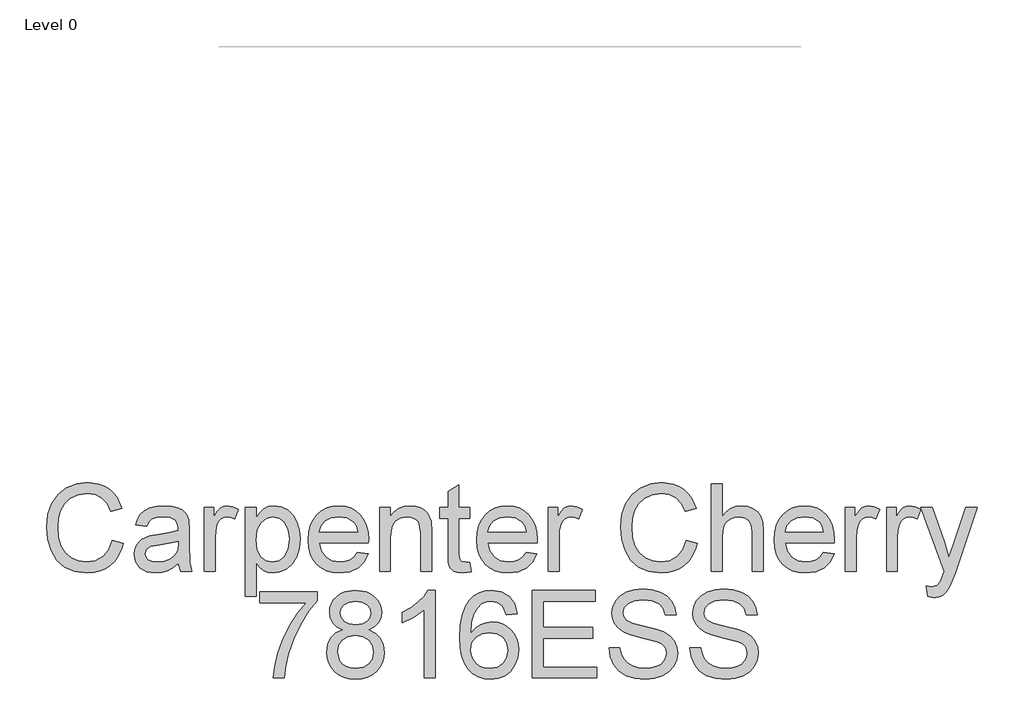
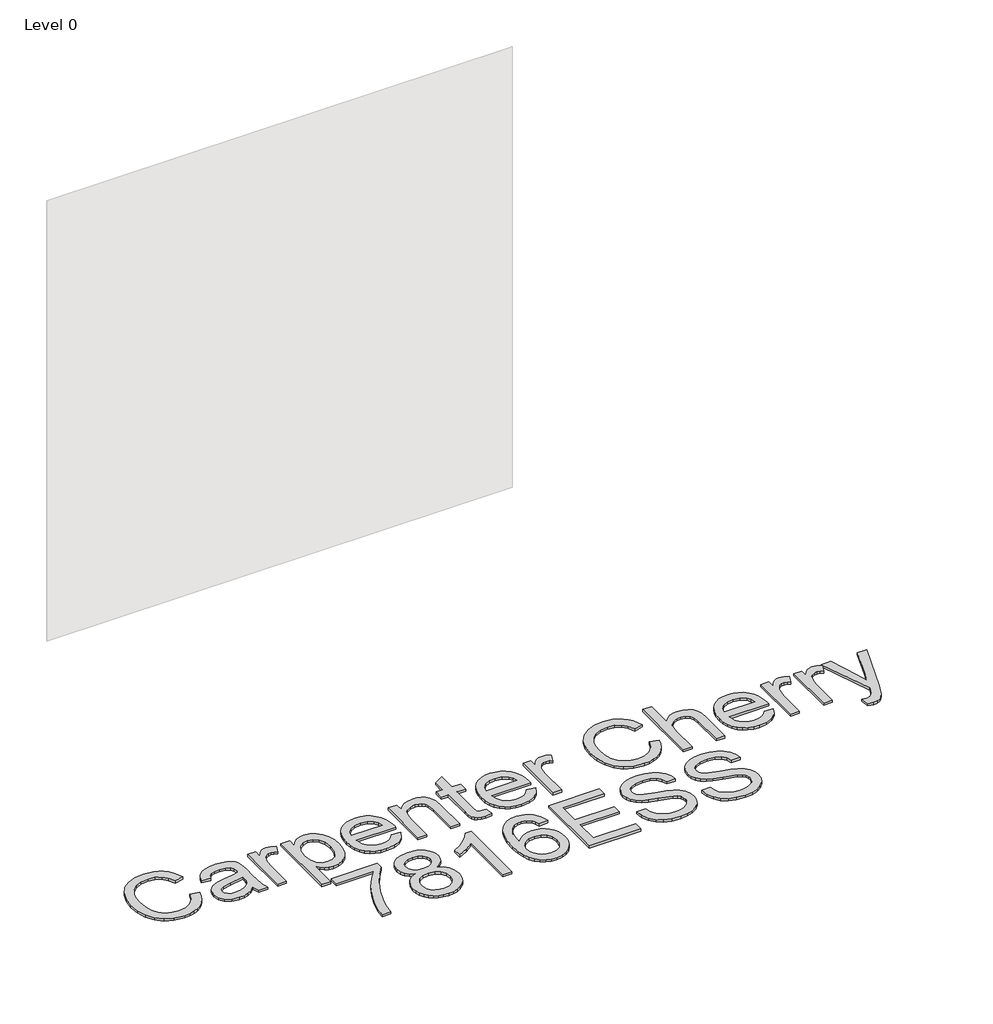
# One storey, part 34 of 43: 1 proxy.
"""IFC4 building model written with IfcOpenShell, lengths in millimetres."""

from ifc_helpers import new_model, si_unit, origin, origin_with_axes, place, context, project, spatial, polyline, outline, extrude, element, save

model = new_model("IFC4")

# Units and contexts
model_context = context("Model", 3, world=origin())
ifc_project = project(units=[si_unit("LENGTHUNIT", "METRE", prefix="MILLI")], contexts=[model_context])

# Site, building, storey
site = spatial("IfcSite", under=ifc_project)
building = spatial("IfcBuilding", under=site)
storey = spatial("IfcBuildingStorey", under=building, Name="Level 0", Elevation=0.0)

# Proxy
placement = place(None, origin())
element("IfcBuildingElementProxy", 1, Name="300mm Arial", ObjectType="300mm Arial", at=placement, inside=storey, context=model_context, shape_type="SweptSolid", body=[
    extrude(outline(polyline([(21383.7639776, -11893.733257), (21421.4350939, -11903.4453417), (21413.980885, -11926.872527), (21404.0526696, -11947.3428607), (21391.6504479, -11964.856343), (21376.7742197, -11979.4129737), (21359.7596774, -11990.856403), (21340.9425134, -11999.0302811), (21320.3227275, -12003.9346079), (21297.9003199, -12005.5693835), (21254.2051359, -12000.6213707), (21219.5046667, -11985.7773322), (21192.9067985, -11961.5523028), (21173.5194174, -11928.4613173), (21161.6828142, -11889.5577963), (21157.7372798, -11847.8951604), (21162.197849, -11803.9516561), (21175.5795565, -11766.0046283), (21197.1834267, -11735.2588905), (21226.3104837, -11712.9192564), (21260.854603, -11699.3168196), (21298.7096603, -11694.782674), (21340.0136113, -11700.6503918), (21357.9823475, -11707.9850391), (21374.1622575, -11718.2535453), (21388.2866269, -11731.1845974), (21400.0887411, -11746.5068825), (21416.7262044, -11784.3251516), (21379.0550881, -11793.3014723), (21365.9952772, -11765.8298843), (21348.1530005, -11746.9851291), (21325.3075286, -11736.086625), (21297.2381323, -11732.4537903), (21264.8829109, -11736.4820981), (21238.3034367, -11748.5670217), (21218.1343063, -11767.439368), (21205.0101161, -11791.8299443), (21197.8088261, -11819.4026999), (21195.4083961, -11847.821584), (21198.2502845, -11882.6232207), (21206.7759497, -11912.7159679), (21221.3072885, -11936.9501944), (21242.1661977, -11954.1762688), (21267.1729763, -11964.4677676), (21294.1479236, -11967.8982672), (21325.5926371, -11963.2261659), (21351.7950322, -11949.2098619), (21371.5778865, -11925.996508), (21383.7639776, -11893.733257)])), origin_with_axes(), (0.0, 0.0, 1.0), 10.0),
    extrude(outline(polyline([(21609.7906754, -11972.6071568), (21591.7920488, -11988.0398064), (21573.2599933, -11998.1381672), (21553.7714446, -12003.7115794), (21532.9033384, -12005.5693835), (21501.4218367, -12001.0996173), (21478.1992858, -11987.6903186), (21463.8794791, -11967.3280501), (21459.1062102, -11941.9993748), (21460.908832, -11926.3827841), (21466.3166973, -11912.2009331), (21474.6584216, -11900.0608273), (21485.2626201, -11890.5694718), (21511.6397591, -11878.2086368), (21544.2341039, -11872.5432541), (21582.7513488, -11866.5835657), (21609.5699462, -11859.5938078), (21609.7906754, -11851.2060983), (21607.1971074, -11834.3938912), (21599.4164032, -11823.3942195), (21582.0155848, -11815.2272392), (21557.7721613, -11812.5049125), (21535.3313596, -11814.3167313), (21519.6595866, -11819.7521878), (21508.9726147, -11829.8045633), (21501.4862161, -11845.4671392), (21463.8150997, -11840.7582497), (21470.3542022, -11820.156858), (21480.1122721, -11803.9700502), (21493.9998175, -11791.590821), (21512.9273461, -11782.4121652), (21536.0763206, -11776.7283884), (21562.6282037, -11774.8337961), (21588.0948348, -11776.5076592), (21608.2823593, -11781.5292485), (21623.5034768, -11789.0800264), (21634.0708871, -11798.3414556), (21641.0790391, -11809.7917827), (21645.6223818, -11823.9092543), (21647.4617917, -11856.8714811), (21647.4617917, -11903.7396473), (21649.3747781, -11969.1858542), (21656.8795708, -12000.860494), (21619.2084545, -12000.860494), (21609.7906754, -11972.6071568)]), holes=[polyline([(21609.7906754, -11897.2649241), (21549.0165698, -11908.8164188), (21516.6061661, -11914.9232599), (21501.9276744, -11924.8560738), (21496.7773265, -11939.3506244), (21499.5824267, -11950.5526311), (21507.9977274, -11959.7312869), (21521.8392874, -11965.8565221), (21540.9231659, -11967.8982672), (21561.1566757, -11965.64499), (21579.0357406, -11958.8851583), (21593.5302912, -11948.9247533), (21603.6102579, -11937.069756), (21608.0800242, -11924.8560738), (21609.5699462, -11907.933502), (21609.7906754, -11897.2649241)])]), origin_with_axes(), (0.0, 0.0, 1.0), 10.0),
    extrude(outline(polyline([(21699.2595767, -12000.860494), (21699.2595767, -11779.5426857), (21732.2218034, -11779.5426857), (21732.2218034, -11812.2841833), (21744.3986975, -11793.3014723), (21755.6190983, -11782.1178596), (21766.8762874, -11776.654812), (21779.163546, -11774.8337961), (21797.9255278, -11777.7400639), (21816.9818151, -11786.4588672), (21804.4002509, -11820.2304343), (21791.1564991, -11814.4362929), (21777.9127472, -11812.5049125), (21766.6647552, -11814.3627165), (21756.6123797, -11819.9361288), (21748.4913847, -11828.8020848), (21743.0375341, -11840.5375205), (21738.4574032, -11861.5803706), (21736.930693, -11884.5362071), (21736.930693, -12000.860494), (21699.2595767, -12000.860494)])), origin_with_axes(), (0.0, 0.0, 1.0), 10.0),
    extrude(outline(polyline([(21840.5262628, -12085.6205057), (21840.5262628, -11779.5426857), (21878.1973791, -11779.5426857), (21878.1973791, -11816.478038), (21890.4846378, -11798.2586822), (21904.2434244, -11785.2448566), (21920.2830794, -11777.4365613), (21939.4129431, -11774.8337961), (21964.8887713, -11778.4758279), (21987.1640261, -11789.4019232), (22005.3006084, -11806.9498943), (22018.3604193, -11830.4575538), (22026.2514881, -11858.2142504), (22028.8818443, -11888.5093327), (22025.9111972, -11920.7265984), (22016.9992559, -11949.5409557), (22002.4311289, -11973.4900735), (21982.4919247, -11991.1116211), (21959.2693738, -12001.9549429), (21934.8512064, -12005.5693835), (21917.5331614, -12003.1505594), (21902.0729206, -11995.894087), (21888.8383658, -11984.9404006), (21878.1973791, -11971.4299344), (21878.1973791, -12085.6205057), (21840.5262628, -12085.6205057)]), holes=[polyline([(21878.1973791, -11891.9674234), (21882.2716722, -11925.7389906), (21894.4945515, -11949.3570147), (21912.5299663, -11963.2629541), (21934.041866, -11967.8982672), (21955.9032535, -11963.0974072), (21974.3985209, -11948.6948271), (21987.0076762, -11924.2122803), (21991.210728, -11889.1715202), (21987.1088438, -11855.5838941), (21974.803191, -11831.6347762), (21956.7953674, -11817.2873784), (21935.5869704, -11812.5049125), (21914.2957999, -11817.590881), (21895.5981975, -11832.8487868), (21882.5475837, -11857.8003831), (21878.1973791, -11891.9674234)])]), origin_with_axes(), (0.0, 0.0, 1.0), 10.0),
    extrude(outline(polyline([(22226.2137466, -11934.9360404), (22263.1490989, -11939.64493), (22249.8409677, -11967.4752029), (22228.6049795, -11988.2789297), (22199.9193809, -12001.2467701), (22164.2624186, -12005.5693835), (22140.8881163, -12003.7046817), (22120.0613968, -11998.1105761), (22101.7822602, -11988.7870668), (22086.0507064, -11975.7341537), (22073.4001643, -11959.3151204), (22064.3640628, -11939.8932503), (22058.9424019, -11917.4685435), (22057.1351816, -11892.0409998), (22058.960796, -11865.7512327), (22064.4376392, -11842.5792656), (22073.5657112, -11822.5250983), (22086.345012, -11805.5887309), (22102.0351791, -11792.133447), (22119.8958499, -11782.5225298), (22139.9270246, -11776.7559796), (22162.128703, -11774.8337961), (22183.6153108, -11776.751381), (22203.0463779, -11782.5041357), (22220.4219044, -11792.0920602), (22235.7418902, -11805.5151545), (22248.2475788, -11822.4147337), (22257.1802135, -11842.4321128), (22262.5397943, -11865.5672917), (22264.3263213, -11891.8202706), (22264.1055921, -11901.9738137), (22094.8062979, -11901.9738137), (22101.3270062, -11930.1719686), (22116.4745474, -11950.902119), (22138.335935, -11963.6492302), (22164.9981826, -11967.8982672), (22185.0477513, -11965.9300985), (22201.9335349, -11960.0255925), (22215.6555333, -11949.8168672), (22226.2137466, -11934.9360404)]), holes=[polyline([(22094.8062979, -11864.3026974), (22226.6552049, -11864.3026974), (22221.5600393, -11844.4002814), (22211.5720431, -11830.1632482), (22189.609488, -11816.9194964), (22161.9815502, -11812.5049125), (22136.5884955, -11816.0273826), (22115.5916306, -11826.5947929), (22100.9959124, -11843.0667092), (22094.8062979, -11864.3026974)])]), origin_with_axes(), (0.0, 0.0, 1.0), 10.0),
    extrude(outline(polyline([(22301.9974376, -12000.860494), (22301.9974376, -11779.5426857), (22339.6685539, -11779.5426857), (22339.6685539, -11810.4447733), (22352.7559558, -11794.8649708), (22368.4737141, -11783.7365404), (22386.8218286, -11777.0594822), (22407.8002994, -11774.8337961), (22426.3691431, -11776.6272209), (22443.3744883, -11782.0074951), (22457.5563392, -11790.303234), (22467.6547, -11800.8430532), (22478.9486772, -11828.5445674), (22480.93524, -11864.964885), (22480.93524, -12000.860494), (22443.2641237, -12000.860494), (22443.2641237, -11870.0416565), (22438.9231162, -11836.7115477), (22432.9174426, -11826.7879309), (22423.582437, -11819.0900002), (22411.6170751, -11814.1511844), (22397.7203327, -11812.5049125), (22375.65661, -11816.2021265), (22356.848643, -11827.2937687), (22349.332354, -11836.3482643), (22343.9635762, -11848.7228949), (22339.6685539, -11883.4325611), (22339.6685539, -12000.860494), (22301.9974376, -12000.860494)])), origin_with_axes(), (0.0, 0.0, 1.0), 10.0),
    extrude(outline(polyline([(22612.7841471, -11969.4433716), (22617.4930366, -12001.96414), (22589.3132758, -12005.5693835), (22571.2318757, -12004.005885), (22557.7490006, -11999.3153896), (22548.2208569, -11992.0865084), (22542.0036512, -11982.9078526), (22538.5823487, -11967.1441091), (22537.4419145, -11940.1599648), (22537.4419145, -11817.213802), (22509.1885772, -11817.213802), (22509.1885772, -11779.5426857), (22537.4419145, -11779.5426857), (22537.4419145, -11725.758338), (22575.1130308, -11703.6118419), (22575.1130308, -11779.5426857), (22612.7841471, -11779.5426857), (22612.7841471, -11817.213802), (22575.1130308, -11817.213802), (22575.1130308, -11939.0563188), (22577.0995936, -11958.4804881), (22583.5375285, -11965.3598814), (22596.3766101, -11967.8982672), (22612.7841471, -11969.4433716)])), origin_with_axes(), (0.0, 0.0, 1.0), 10.0),
    extrude(outline(polyline([(22805.4071598, -11934.9360404), (22842.3425121, -11939.64493), (22829.0343809, -11967.4752029), (22807.7983927, -11988.2789297), (22779.1127942, -12001.2467701), (22743.4558318, -12005.5693835), (22720.0815295, -12003.7046817), (22699.25481, -11998.1105761), (22680.9756734, -11988.7870668), (22665.2441196, -11975.7341537), (22652.5935775, -11959.3151204), (22643.557476, -11939.8932503), (22638.1358151, -11917.4685435), (22636.3285948, -11892.0409998), (22638.1542092, -11865.7512327), (22643.6310524, -11842.5792656), (22652.7591244, -11822.5250983), (22665.5384252, -11805.5887309), (22681.2285923, -11792.133447), (22699.0892632, -11782.5225298), (22719.1204378, -11776.7559796), (22741.3221162, -11774.8337961), (22762.808724, -11776.751381), (22782.2397911, -11782.5041357), (22799.6153176, -11792.0920602), (22814.9353034, -11805.5151545), (22827.440992, -11822.4147337), (22836.3736267, -11842.4321128), (22841.7332075, -11865.5672917), (22843.5197345, -11891.8202706), (22843.2990053, -11901.9738137), (22673.9997111, -11901.9738137), (22680.5204194, -11930.1719686), (22695.6679606, -11950.902119), (22717.5293482, -11963.6492302), (22744.1915958, -11967.8982672), (22764.2411645, -11965.9300985), (22781.1269481, -11960.0255925), (22794.8489465, -11949.8168672), (22805.4071598, -11934.9360404)]), holes=[polyline([(22673.9997111, -11864.3026974), (22805.8486182, -11864.3026974), (22800.7534525, -11844.4002814), (22790.7654563, -11830.1632482), (22768.8029012, -11816.9194964), (22741.1749634, -11812.5049125), (22715.7819087, -11816.0273826), (22694.7850438, -11826.5947929), (22680.1893256, -11843.0667092), (22673.9997111, -11864.3026974)])]), origin_with_axes(), (0.0, 0.0, 1.0), 10.0),
    extrude(outline(polyline([(22881.1908508, -12000.860494), (22881.1908508, -11779.5426857), (22914.1530775, -11779.5426857), (22914.1530775, -11812.2841833), (22926.3299716, -11793.3014723), (22937.5503724, -11782.1178596), (22948.8075615, -11776.654812), (22961.0948201, -11774.8337961), (22979.8568019, -11777.7400639), (22998.9130892, -11786.4588672), (22986.331525, -11820.2304343), (22973.0877732, -11814.4362929), (22959.8440213, -11812.5049125), (22948.5960293, -11814.3627165), (22938.5436538, -11819.9361288), (22930.4226588, -11828.8020848), (22924.9688082, -11840.5375205), (22920.3886774, -11861.5803706), (22918.8619671, -11884.5362071), (22918.8619671, -12000.860494), (22881.1908508, -12000.860494)])), origin_with_axes(), (0.0, 0.0, 1.0), 10.0),
    extrude(outline(polyline([(23356.7886941, -11893.733257), (23394.4598104, -11903.4453417), (23387.0056015, -11926.872527), (23377.0773862, -11947.3428607), (23364.6751644, -11964.856343), (23349.7989362, -11979.4129737), (23332.7843939, -11990.856403), (23313.9672299, -11999.0302811), (23293.3474441, -12003.9346079), (23270.9250365, -12005.5693835), (23227.2298525, -12000.6213707), (23192.5293833, -11985.7773322), (23165.931515, -11961.5523028), (23146.5441339, -11928.4613173), (23134.7075307, -11889.5577963), (23130.7619963, -11847.8951604), (23135.2225655, -11803.9516561), (23148.6042731, -11766.0046283), (23170.2081432, -11735.2588905), (23199.3352002, -11712.9192564), (23233.8793195, -11699.3168196), (23271.7343768, -11694.782674), (23313.0383279, -11700.6503918), (23331.0070641, -11707.9850391), (23347.1869741, -11718.2535453), (23361.3113434, -11731.1845974), (23373.1134577, -11746.5068825), (23389.7509209, -11784.3251516), (23352.0798046, -11793.3014723), (23339.0199938, -11765.8298843), (23321.177717, -11746.9851291), (23298.3322451, -11736.086625), (23270.2628489, -11732.4537903), (23237.9076274, -11736.4820981), (23211.3281532, -11748.5670217), (23191.1590228, -11767.439368), (23178.0348327, -11791.8299443), (23170.8335426, -11819.4026999), (23168.4331126, -11847.821584), (23171.275001, -11882.6232207), (23179.8006662, -11912.7159679), (23194.3320051, -11936.9501944), (23215.1909142, -11954.1762688), (23240.1976928, -11964.4677676), (23267.1726401, -11967.8982672), (23298.6173536, -11963.2261659), (23324.8197487, -11949.2098619), (23344.602603, -11925.996508), (23356.7886941, -11893.733257)])), origin_with_axes(), (0.0, 0.0, 1.0), 10.0),
    extrude(outline(polyline([(23441.5487058, -12000.860494), (23441.5487058, -11699.4915635), (23479.2198221, -11699.4915635), (23479.2198221, -11810.2976205), (23493.0567837, -11794.7821973), (23508.5951994, -11783.6997522), (23525.8350694, -11777.0502852), (23544.7763937, -11774.8337961), (23567.5298951, -11777.2526203), (23587.0828231, -11784.5090926), (23602.4786846, -11796.0329961), (23612.7609864, -11811.2541137), (23618.5551278, -11832.1682051), (23620.4865083, -11860.7710302), (23620.4865083, -12000.860494), (23582.815392, -12000.860494), (23582.815392, -11864.6705794), (23579.8171537, -11841.0893435), (23570.8224389, -11824.9393239), (23556.3278883, -11815.6135153), (23536.8301426, -11812.5049125), (23520.9100492, -11814.6018398), (23505.9648432, -11820.8926219), (23493.585614, -11830.7702535), (23485.3634514, -11843.6277292), (23480.7557295, -11860.7158479), (23479.2198221, -11883.2854083), (23479.2198221, -12000.860494), (23441.5487058, -12000.860494)])), origin_with_axes(), (0.0, 0.0, 1.0), 10.0),
    extrude(outline(polyline([(23827.2361896, -11934.9360404), (23864.1715419, -11939.64493), (23850.8634107, -11967.4752029), (23829.6274225, -11988.2789297), (23800.941824, -12001.2467701), (23765.2848616, -12005.5693835), (23741.9105593, -12003.7046817), (23721.0838399, -11998.1105761), (23702.8047032, -11988.7870668), (23687.0731494, -11975.7341537), (23674.4226073, -11959.3151204), (23665.3865058, -11939.8932503), (23659.9648449, -11917.4685435), (23658.1576246, -11892.0409998), (23659.983239, -11865.7512327), (23665.4600822, -11842.5792656), (23674.5881542, -11822.5250983), (23687.367455, -11805.5887309), (23703.0576221, -11792.133447), (23720.918293, -11782.5225298), (23740.9494676, -11776.7559796), (23763.151146, -11774.8337961), (23784.6377538, -11776.751381), (23804.0688209, -11782.5041357), (23821.4443474, -11792.0920602), (23836.7643332, -11805.5151545), (23849.2700218, -11822.4147337), (23858.2026565, -11842.4321128), (23863.5622373, -11865.5672917), (23865.3487643, -11891.8202706), (23865.1280351, -11901.9738137), (23695.8287409, -11901.9738137), (23702.3494492, -11930.1719686), (23717.4969904, -11950.902119), (23739.358378, -11963.6492302), (23766.0206256, -11967.8982672), (23786.0701943, -11965.9300985), (23802.9559779, -11960.0255925), (23816.6779763, -11949.8168672), (23827.2361896, -11934.9360404)]), holes=[polyline([(23695.8287409, -11864.3026974), (23827.677648, -11864.3026974), (23822.5824823, -11844.4002814), (23812.5944862, -11830.1632482), (23790.631931, -11816.9194964), (23763.0039932, -11812.5049125), (23737.6109385, -11816.0273826), (23716.6140736, -11826.5947929), (23702.0183555, -11843.0667092), (23695.8287409, -11864.3026974)])]), origin_with_axes(), (0.0, 0.0, 1.0), 10.0),
    extrude(outline(polyline([(23903.0198806, -12000.860494), (23903.0198806, -11779.5426857), (23935.9821073, -11779.5426857), (23935.9821073, -11812.2841833), (23948.1590014, -11793.3014723), (23959.3794022, -11782.1178596), (23970.6365913, -11776.654812), (23982.9238499, -11774.8337961), (24001.6858317, -11777.7400639), (24020.742119, -11786.4588672), (24008.1605548, -11820.2304343), (23994.916803, -11814.4362929), (23981.6730511, -11812.5049125), (23970.4250591, -11814.3627165), (23960.3726836, -11819.9361288), (23952.2516886, -11828.8020848), (23946.797838, -11840.5375205), (23942.2177072, -11861.5803706), (23940.6909969, -11884.5362071), (23940.6909969, -12000.860494), (23903.0198806, -12000.860494)])), origin_with_axes(), (0.0, 0.0, 1.0), 10.0),
    extrude(outline(polyline([(24044.2865667, -12000.860494), (24044.2865667, -11779.5426857), (24077.2487935, -11779.5426857), (24077.2487935, -11812.2841833), (24089.4256875, -11793.3014723), (24100.6460884, -11782.1178596), (24111.9032774, -11776.654812), (24124.1905361, -11774.8337961), (24142.9525178, -11777.7400639), (24162.0088052, -11786.4588672), (24149.4272409, -11820.2304343), (24136.1834891, -11814.4362929), (24122.9397373, -11812.5049125), (24111.6917453, -11814.3627165), (24101.6393698, -11819.9361288), (24093.5183747, -11828.8020848), (24088.0645241, -11840.5375205), (24083.4843933, -11861.5803706), (24081.957683, -11884.5362071), (24081.957683, -12000.860494), (24044.2865667, -12000.860494)])), origin_with_axes(), (0.0, 0.0, 1.0), 10.0),
    extrude(outline(polyline([(24185.5532529, -12085.6205057), (24180.8443633, -12049.3473409), (24199.9742271, -12052.6582789), (24217.853292, -12048.5012124), (24228.8161755, -12036.9129295), (24239.1168714, -12009.1746271), (24242.0599273, -12000.0511536), (24162.0088052, -11779.5426857), (24201.7400607, -11779.5426857), (24244.1936429, -11902.4152721), (24258.9824991, -11951.5643066), (24273.7713553, -11908.1542312), (24317.4021599, -11779.5426857), (24356.8391098, -11779.5426857), (24279.80462, -12006.1579947), (24259.7918395, -12055.3070293), (24249.5463259, -12070.9971964), (24237.939649, -12081.8681093), (24224.4567739, -12088.2140737), (24208.5826658, -12090.3293952), (24185.5532529, -12085.6205057)])), origin_with_axes(), (0.0, 0.0, 1.0), 10.0),
    extrude(outline(polyline([(21889.969603, -12107.7960229), (21889.969603, -12070.1249066), (22087.7429636, -12070.1249066), (22087.7429636, -12100.5855358), (22059.5540057, -12136.2608923), (22031.6409593, -12181.6299393), (22007.0204568, -12232.5540045), (21988.7091305, -12284.8944154), (21979.7328098, -12324.0554538), (21974.7296146, -12366.7849475), (21937.0584983, -12366.7849475), (21941.1327914, -12327.9550029), (21952.0312955, -12281.8042066), (21969.4597051, -12232.8850983), (21993.1237144, -12185.7502177), (22020.7516522, -12143.1402856), (22050.0718473, -12107.7960229), (21889.969603, -12107.7960229)])), origin_with_axes(), (0.0, 0.0, 1.0), 10.0),
    extrude(outline(polyline([(22175.593184, -12200.7965913), (22155.4240536, -12190.8637774), (22141.2697939, -12177.3992964), (22132.9096755, -12160.6790597), (22130.1229694, -12140.9789789), (22131.6404826, -12125.6153071), (22136.1930223, -12111.5300252), (22143.7805885, -12098.7231332), (22154.4031811, -12087.1946312), (22167.5503639, -12077.6664875), (22182.7117006, -12070.8606706), (22219.0768358, -12065.4160171), (22255.6627003, -12070.9894293), (22270.9895839, -12077.9561946), (22284.3391018, -12087.709666), (22295.1548324, -12099.4634957), (22302.8803543, -12112.4313361), (22307.5156675, -12126.613187), (22309.0607719, -12142.0090485), (22306.310854, -12161.0745329), (22298.0611002, -12177.509661), (22284.2195401, -12190.8913686), (22264.6942032, -12200.7965913), (22287.879966, -12212.7435591), (22304.7565525, -12230.3375155), (22315.0480513, -12252.732332), (22318.4785509, -12279.0818799), (22316.7770967, -12297.8714528), (22311.672734, -12315.0975272), (22303.1654629, -12330.7601031), (22291.2552833, -12344.8591806), (22276.5675946, -12356.5118428), (22259.7277963, -12364.8351729), (22240.7358883, -12369.829171), (22219.5918706, -12371.4938371), (22198.447853, -12369.8222732), (22179.455945, -12364.8075818), (22162.6161466, -12356.4497627), (22147.928458, -12344.748816), (22136.0182784, -12330.5508703), (22127.5110072, -12314.7020541), (22122.4066446, -12297.2023674), (22120.7051903, -12278.0518103), (22124.2736457, -12250.6813898), (22134.9790117, -12228.1670117), (22152.2694655, -12211.2812282), (22175.593184, -12200.7965913)]), holes=[polyline([(22167.7940857, -12142.0826249), (22171.1326148, -12158.52695), (22181.1482021, -12171.6603373), (22197.5465421, -12180.268776), (22220.033329, -12183.1382555), (22241.9958841, -12180.2871701), (22258.1459037, -12171.7339137), (22268.0787176, -12159.0419848), (22271.3896556, -12143.774882), (22267.968353, -12127.9283651), (22257.7044453, -12114.822569), (22241.3336966, -12106.0209923), (22219.5918706, -12103.0871334), (22197.712089, -12105.9566129), (22181.3689313, -12114.5650516), (22171.1877971, -12127.1834041), (22167.7940857, -12142.0826249)]), polyline([(22158.3763066, -12276.7274351), (22164.6670888, -12305.0911369), (22173.376695, -12317.2588339), (22186.9239495, -12326.317928), (22203.1475455, -12331.9465226), (22219.8861762, -12333.8227207), (22245.5275513, -12329.8771864), (22264.7677796, -12318.0405832), (22276.7975209, -12300.1155329), (22280.8074346, -12277.9046575), (22276.6687622, -12255.316703), (22264.2527449, -12236.9961796), (22244.5710581, -12224.8560738), (22218.6353775, -12220.8093718), (22193.3526873, -12224.8008915), (22174.305597, -12236.7754504), (22162.3586292, -12254.7464859), (22158.3763066, -12276.7274351)])]), origin_with_axes(), (0.0, 0.0, 1.0), 10.0),
    extrude(outline(polyline([(22492.7074639, -12366.7849475), (22455.0363476, -12366.7849475), (22455.0363476, -12131.9290818), (22419.351794, -12157.3497277), (22379.6941149, -12176.3692268), (22379.6941149, -12140.7582497), (22409.2810244, -12124.6634124), (22434.9132024, -12105.5151545), (22455.119121, -12085.1528861), (22468.4272522, -12065.4160171), (22492.7074639, -12065.4160171), (22492.7074639, -12366.7849475)])), origin_with_axes(), (0.0, 0.0, 1.0), 10.0),
    extrude(outline(polyline([(22775.2408362, -12145.4671392), (22737.5697198, -12150.1760288), (22731.4996669, -12131.5060175), (22723.2958984, -12118.7589064), (22706.2077798, -12107.0050766), (22685.5512057, -12103.0871334), (22668.0400228, -12105.3680017), (22651.5589094, -12112.2106069), (22637.4046496, -12126.622384), (22625.8439579, -12146.4604206), (22618.0356626, -12174.5206198), (22615.1385919, -12213.5988847), (22630.2493448, -12195.9681401), (22648.358336, -12183.5429257), (22668.45389, -12176.1760888), (22689.5243313, -12173.7204764), (22707.6241254, -12175.3989381), (22724.325968, -12180.4343229), (22739.629859, -12188.8266309), (22753.5357984, -12200.5758621), (22765.0918916, -12214.9830407), (22773.3462439, -12231.349191), (22778.2988552, -12249.6743129), (22779.9497257, -12269.9584064), (22776.8411228, -12296.9333537), (22767.5153143, -12321.9401323), (22752.7448521, -12343.1485293), (22733.3022887, -12358.7283318), (22710.0705407, -12368.3024607), (22683.932525, -12371.4938371), (22661.4756284, -12369.3785156), (22641.1938342, -12363.0325512), (22623.0871422, -12352.4559438), (22607.1555526, -12337.6486935), (22594.1670189, -12317.9854009), (22584.8894948, -12292.8406665), (22579.3229804, -12262.2144904), (22577.4674755, -12226.1068726), (22579.5276147, -12185.6260575), (22585.7080322, -12151.0773396), (22596.0087281, -12122.4607189), (22610.4297023, -12099.7761954), (22626.0600886, -12084.7436174), (22644.1828754, -12074.0060617), (22664.7980627, -12067.5635282), (22687.9056505, -12065.4160171), (22720.9598478, -12070.7319119), (22747.4289573, -12086.6795964), (22765.9702099, -12112.0082718), (22775.2408362, -12145.4671392)]), holes=[polyline([(22615.1385919, -12269.3697952), (22617.3182927, -12286.0624407), (22623.8573951, -12302.0009282), (22634.0109382, -12315.7045325), (22647.0339608, -12325.6925287), (22662.7517191, -12331.7901727), (22680.989469, -12333.8227207), (22705.8490948, -12329.6104719), (22725.3928258, -12316.9737254), (22738.0571635, -12297.1080976), (22742.2786094, -12271.2092052), (22738.1123458, -12246.3495793), (22725.613555, -12227.3944595), (22705.7387302, -12215.3923095), (22679.4443646, -12211.3915928), (22654.621527, -12215.3923095), (22633.8637854, -12227.3944595), (22619.8198902, -12245.8897269), (22615.1385919, -12269.3697952)])]), origin_with_axes(), (0.0, 0.0, 1.0), 10.0),
    extrude(outline(polyline([(22827.0386211, -12366.7849475), (22827.0386211, -12065.4160171), (23043.6475398, -12065.4160171), (23043.6475398, -12103.0871334), (22864.7097374, -12103.0871334), (22864.7097374, -12192.5560346), (23034.2297608, -12192.5560346), (23034.2297608, -12230.2271509), (22864.7097374, -12230.2271509), (22864.7097374, -12329.1138312), (23048.3564294, -12329.1138312), (23048.3564294, -12366.7849475), (22827.0386211, -12366.7849475)])), origin_with_axes(), (0.0, 0.0, 1.0), 10.0),
    extrude(outline(polyline([(23090.7364352, -12263.1893777), (23128.4075515, -12263.1893777), (23132.730165, -12284.0942721), (23140.5476574, -12300.8972822), (23152.7429455, -12314.2330045), (23170.1989462, -12324.7360355), (23191.5361019, -12331.5510494), (23215.3748552, -12333.8227207), (23236.362523, -12332.1028724), (23254.7382287, -12326.9433274), (23269.6282524, -12318.7763471), (23280.1588745, -12308.0341929), (23286.4220655, -12295.700949), (23288.5097958, -12282.7606998), (23286.9462973, -12270.1515444), (23282.2558019, -12259.2530403), (23272.7276582, -12249.9548229), (23256.651215, -12242.1465276), (23201.8000096, -12227.7623415), (23165.7935593, -12218.2433949), (23142.7549493, -12209.1843008), (23124.0021646, -12196.510766), (23110.7124276, -12181.1516928), (23102.7937676, -12163.4381747), (23100.1542143, -12143.7013056), (23103.419167, -12121.637583), (23113.2140251, -12101.0637824), (23129.2812713, -12083.6261758), (23151.363388, -12070.9710352), (23177.8692858, -12063.2731044), (23207.2078749, -12060.7071275), (23238.9928793, -12063.3926661), (23266.8047581, -12071.4492818), (23289.65023, -12084.7114277), (23306.5360136, -12103.013557), (23317.2229855, -12125.2152354), (23321.4720226, -12150.1760288), (23283.8009063, -12150.1760288), (23276.8847248, -12127.6984389), (23262.4637506, -12111.4748429), (23239.9309784, -12101.6523936), (23208.6794029, -12098.3782438), (23176.6920634, -12101.6156054), (23154.7479024, -12111.3276901), (23142.0559735, -12125.6199056), (23137.8253306, -12142.5976597), (23140.8235689, -12157.0738162), (23149.8182836, -12168.7172813), (23171.081863, -12179.1283418), (23211.3281532, -12189.7601314), (23252.8620305, -12199.8584922), (23277.9883708, -12208.669266), (23299.4634822, -12222.3360821), (23314.4454765, -12239.2034716), (23323.2470532, -12259.0874934), (23326.1809121, -12281.8042066), (23322.8055948, -12305.0267576), (23312.6796429, -12326.869751), (23296.2169236, -12345.668521), (23273.8313042, -12359.7584014), (23246.9115392, -12368.5599781), (23216.8463832, -12371.4938371), (23179.938622, -12368.3300519), (23149.5607662, -12358.8386964), (23125.363328, -12342.9829824), (23106.9968194, -12320.7261217), (23095.2062015, -12293.6132187), (23090.7364352, -12263.1893777)])), origin_with_axes(), (0.0, 0.0, 1.0), 10.0),
    extrude(outline(polyline([(23368.560918, -12263.1893777), (23406.2320343, -12263.1893777), (23410.5546477, -12284.0942721), (23418.3721401, -12300.8972822), (23430.5674283, -12314.2330045), (23448.0234289, -12324.7360355), (23469.3605847, -12331.5510494), (23493.1993379, -12333.8227207), (23514.1870058, -12332.1028724), (23532.5627114, -12326.9433274), (23547.4527352, -12318.7763471), (23557.9833573, -12308.0341929), (23564.2465483, -12295.700949), (23566.3342786, -12282.7606998), (23564.7707801, -12270.1515444), (23560.0802847, -12259.2530403), (23550.552141, -12249.9548229), (23534.4756978, -12242.1465276), (23479.6244923, -12227.7623415), (23443.618042, -12218.2433949), (23420.5794321, -12209.1843008), (23401.8266474, -12196.510766), (23388.5369103, -12181.1516928), (23380.6182504, -12163.4381747), (23377.9786971, -12143.7013056), (23381.2436498, -12121.637583), (23391.0385079, -12101.0637824), (23407.105754, -12083.6261758), (23429.1878708, -12070.9710352), (23455.6937685, -12063.2731044), (23485.0323576, -12060.7071275), (23516.817362, -12063.3926661), (23544.6292409, -12071.4492818), (23567.4747128, -12084.7114277), (23584.3604963, -12103.013557), (23595.0474683, -12125.2152354), (23599.2965053, -12150.1760288), (23561.625389, -12150.1760288), (23554.7092075, -12127.6984389), (23540.2882333, -12111.4748429), (23517.7554611, -12101.6523936), (23486.5038856, -12098.3782438), (23454.5165461, -12101.6156054), (23432.5723851, -12111.3276901), (23419.8804563, -12125.6199056), (23415.6498134, -12142.5976597), (23418.6480516, -12157.0738162), (23427.6427664, -12168.7172813), (23448.9063457, -12179.1283418), (23489.152636, -12189.7601314), (23530.6865132, -12199.8584922), (23555.8128535, -12208.669266), (23577.287965, -12222.3360821), (23592.2699592, -12239.2034716), (23601.071536, -12259.0874934), (23604.0053949, -12281.8042066), (23600.6300776, -12305.0267576), (23590.5041257, -12326.869751), (23574.0414064, -12345.668521), (23551.655787, -12359.7584014), (23524.736022, -12368.5599781), (23494.6708659, -12371.4938371), (23457.7631048, -12368.3300519), (23427.385249, -12358.8386964), (23403.1878108, -12342.9829824), (23384.8213022, -12320.7261217), (23373.0306842, -12293.6132187), (23368.560918, -12263.1893777)])), origin_with_axes(), (0.0, 0.0, 1.0), 10.0),
])

save(model, "model.ifc")
